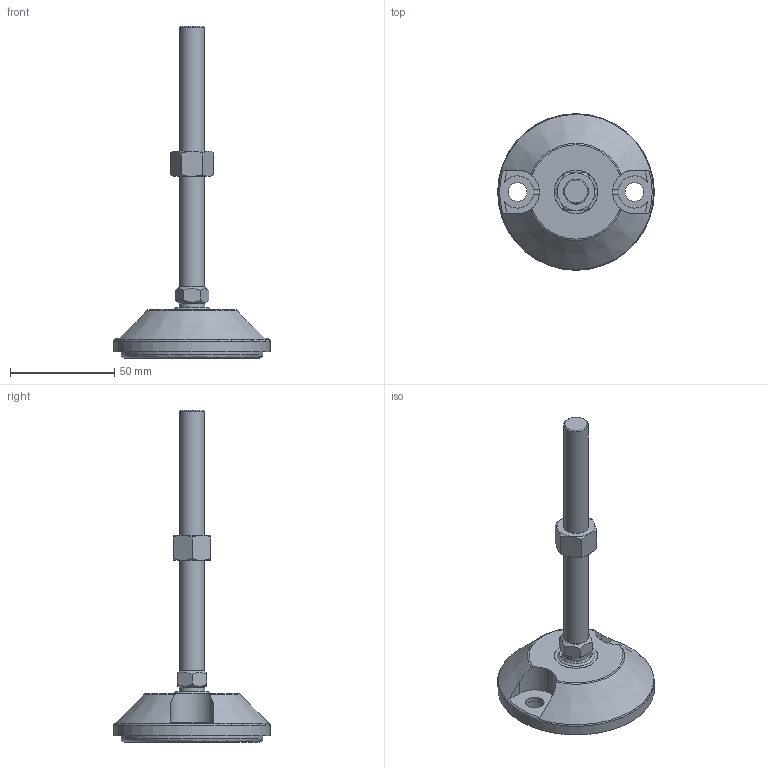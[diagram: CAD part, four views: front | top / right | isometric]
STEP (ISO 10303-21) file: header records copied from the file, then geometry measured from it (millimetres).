
FILE_DESCRIPTION(/* description */ (''),/* implementation_level */ '2;1');
FILE_NAME(/* name */ 'Articulating Anti-slip Levelling Foot - Metal 75mm - M12 - 125mm.step',/* time_stamp */ '2025-10-14T14:13:20+03:00',/* author */ (''),/* organization */ (''),/* preprocessor_version */ 'ST-DEVELOPER v20.1',/* originating_system */ 'Autodesk Translation Framework v14.17.0.0',/* authorisation */ '');
FILE_SCHEMA (('AUTOMOTIVE_DESIGN { 1 0 10303 214 3 1 1 }'));
Length unit declared in the file: millimetre
Products named in the file (8): Articulating Anti-slip Levelling Foot - Metal 75mm - M12 - 125mm; Articulating Levelling Foot Stud - M12 - 125mm; hex nut style 2_am_B18.2.4.2M - Hex nut, Style 2,  M12 x 1.75 --D-N; Articulating Levelling Foot Stud - M12 - 125mm_1; 340-1000A-01_ASM; 340-1001B-01; 340-1003B-01; 340-1002B-01
Assembly tree (7 placements, depth 3):
  Articulating Anti-slip Levelling Foot - Metal 75mm - M12 - 125mm
    Articulating Levelling Foot Stud - M12 - 125mm
      hex nut style 2_am_B18.2.4.2M - Hex nut, Style 2,  M12 x 1.75 --D-N
      Articulating Levelling Foot Stud - M12 - 125mm_1
    340-1000A-01_ASM
      340-1001B-01
      340-1003B-01
      340-1002B-01
Bounding box: 75 x 75 x 159.01 mm (x, y, z)
Volume: 75488.9 mm3; surface area: 35172.3 mm2
Topology: 5 solids, 5 shells, 184 faces, 462 edges, 303 vertices
Faces by surface type: plane 93, cylinder 46, cone 37, torus 4, bspline 3, sphere 1
Full cylindrical faces by diameter (mm): 3.7 x2, 3.996 x1, 7 x2, 9 x2, 10.274 x1, 11 x2, 11.834 x1, 12 x1, 12.166 x1, 15 x2, 15.052 x1, 16 x1, 20 x1, 20.8 x1, 21 x1, 40 x1, 68 x1, 69 x1, 75 x1
Entity records: 6275 total; most frequent: CARTESIAN_POINT 1659, DIRECTION 953, ORIENTED_EDGE 922, EDGE_CURVE 461, AXIS2_PLACEMENT_3D 386, VERTEX_POINT 303, EDGE_LOOP 214, CIRCLE 190
